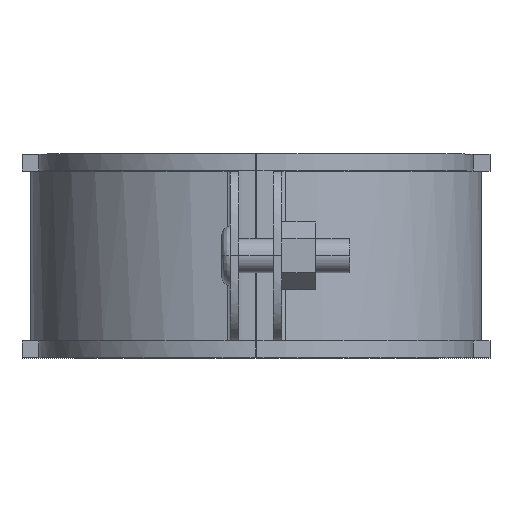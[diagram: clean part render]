
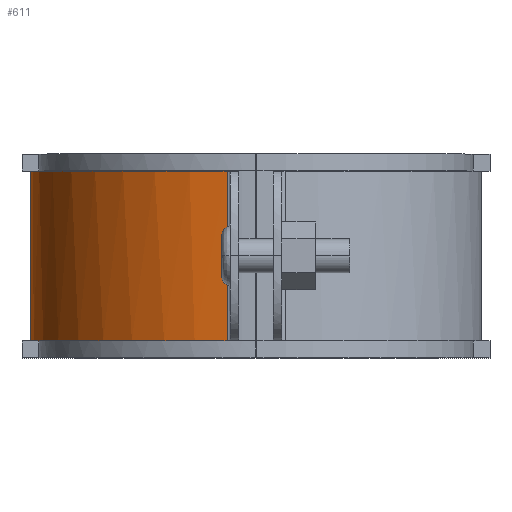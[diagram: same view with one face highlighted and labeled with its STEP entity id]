
A CAD part, top view. The second image highlights one B-rep face of the part: STEP entity #611.
In plain terms, the highlighted free-form (B-spline) face has degree [3, 1] with [4, 2] control points.
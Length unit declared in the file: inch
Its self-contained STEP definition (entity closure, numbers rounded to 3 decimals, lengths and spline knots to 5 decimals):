
#397=EDGE_CURVE('',#1055,#1056,#1057,.T.);
#611=ADVANCED_FACE('',(#1377),#1378,.T.);
#663=EDGE_CURVE('',#1063,#999,#1449,.T.);
#723=EDGE_CURVE('',#999,#1056,#1529,.T.);
#865=EDGE_CURVE('',#1055,#1063,#1713,.T.);
#999=VERTEX_POINT('',#1897);
#1055=VERTEX_POINT('',#2001);
#1056=VERTEX_POINT('',#2002);
#1057=LINE('',#2003,#2004);
#1063=VERTEX_POINT('',#2014);
#1377=FACE_OUTER_BOUND('',#2756,.T.);
#1378=B_SPLINE_SURFACE_WITH_KNOTS('',3,1,((#2757,#2758),(#2759,#2760),(#2761,#2762),(#2763,#2764)),.UNSPECIFIED.,.F.,.F.,.F.,(4,4),(2,2),(-1.0,-0.0),(0.0,1.25),.UNSPECIFIED.);
#1449=LINE('',#2938,#2939);
#1529=B_SPLINE_CURVE_WITH_KNOTS('',3,(#3081,#3082,#3083,#3084),.UNSPECIFIED.,.F.,.F.,(4,4),(0.0,1.0),.UNSPECIFIED.);
#1713=B_SPLINE_CURVE_WITH_KNOTS('',3,(#3438,#3439,#3440,#3441),.UNSPECIFIED.,.F.,.F.,(4,4),(-1.0,-0.0),.UNSPECIFIED.);
#1897=CARTESIAN_POINT('',(0.04578,0.,2.41081));
#2001=CARTESIAN_POINT('',(1.49233,1.24627,4.05848));
#2002=CARTESIAN_POINT('',(1.49233,0.,4.05848));
#2003=CARTESIAN_POINT('',(1.49233,1.25,4.05848));
#2004=VECTOR('',#3686,1.0);
#2014=CARTESIAN_POINT('',(0.04578,1.24627,2.41081));
#2756=EDGE_LOOP('',(#4092,#4093,#4094,#4095));
#2757=CARTESIAN_POINT('',(1.49233,1.25,4.05848));
#2758=CARTESIAN_POINT('',(1.49233,0.,4.05848));
#2759=CARTESIAN_POINT('',(0.67632,1.25,3.95378));
#2760=CARTESIAN_POINT('',(0.67632,0.,3.95378));
#2761=CARTESIAN_POINT('',(0.04578,1.25,3.25584));
#2762=CARTESIAN_POINT('',(0.04578,0.,3.25584));
#2763=CARTESIAN_POINT('',(0.04578,1.25,2.41081));
#2764=CARTESIAN_POINT('',(0.04578,0.,2.41081));
#2938=CARTESIAN_POINT('',(0.04578,1.25,2.41081));
#2939=VECTOR('',#4224,1.0);
#3081=CARTESIAN_POINT('',(0.04578,0.,2.41081));
#3082=CARTESIAN_POINT('',(0.04578,0.,3.25584));
#3083=CARTESIAN_POINT('',(0.67632,0.,3.95378));
#3084=CARTESIAN_POINT('',(1.49233,0.,4.05848));
#3438=CARTESIAN_POINT('',(1.49233,1.24627,4.05848));
#3439=CARTESIAN_POINT('',(0.67632,1.24627,3.95378));
#3440=CARTESIAN_POINT('',(0.04578,1.24627,3.25584));
#3441=CARTESIAN_POINT('',(0.04578,1.24627,2.41081));
#3686=DIRECTION('',(0.0,-1.0,0.0));
#4092=ORIENTED_EDGE('',*,*,#865,.T.);
#4093=ORIENTED_EDGE('',*,*,#663,.T.);
#4094=ORIENTED_EDGE('',*,*,#723,.T.);
#4095=ORIENTED_EDGE('',*,*,#397,.F.);
#4224=DIRECTION('',(0.0,-1.0,0.0));
